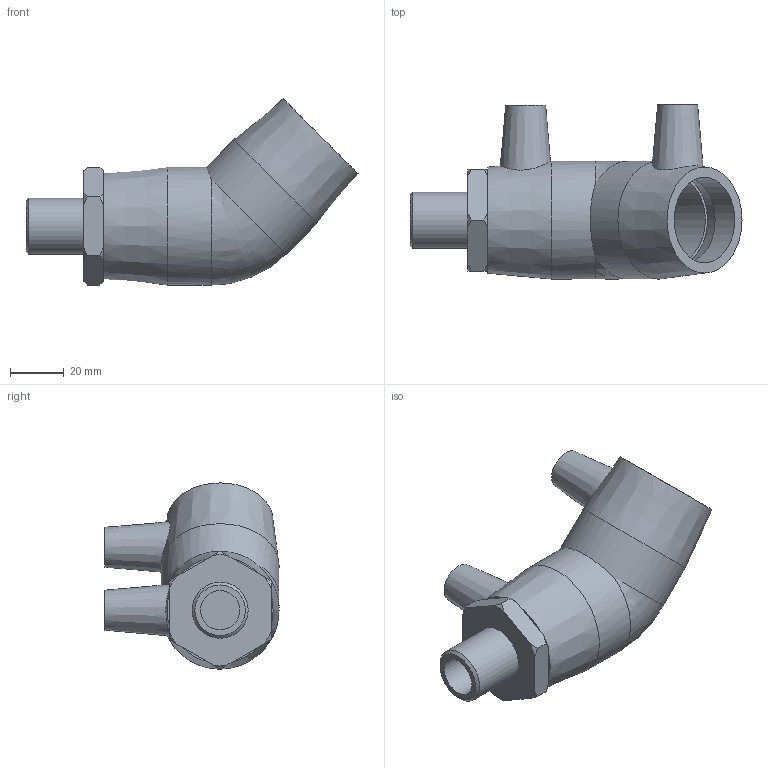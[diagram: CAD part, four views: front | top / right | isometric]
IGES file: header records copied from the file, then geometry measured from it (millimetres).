
Global section: file name: 492604032005.ipt; native system: Autodesk Inventor 2015; preprocessor: unknown; author: KIM; date: 20200202.122358; units: millimetre
Bounding box: 124 x 65 x 69.55 mm (x, y, z)
Volume: 106636.2 mm3; surface area: 31928.3 mm2
Topology: 1 solids, 2 shells, 59 faces, 142 edges, 97 vertices
Faces by surface type: plane 24, cone 17, revolution 10, cylinder 7, bspline 1
Full cylindrical faces by diameter (mm): 4 x2, 20.955 x1, 32 x2, 44 x2
